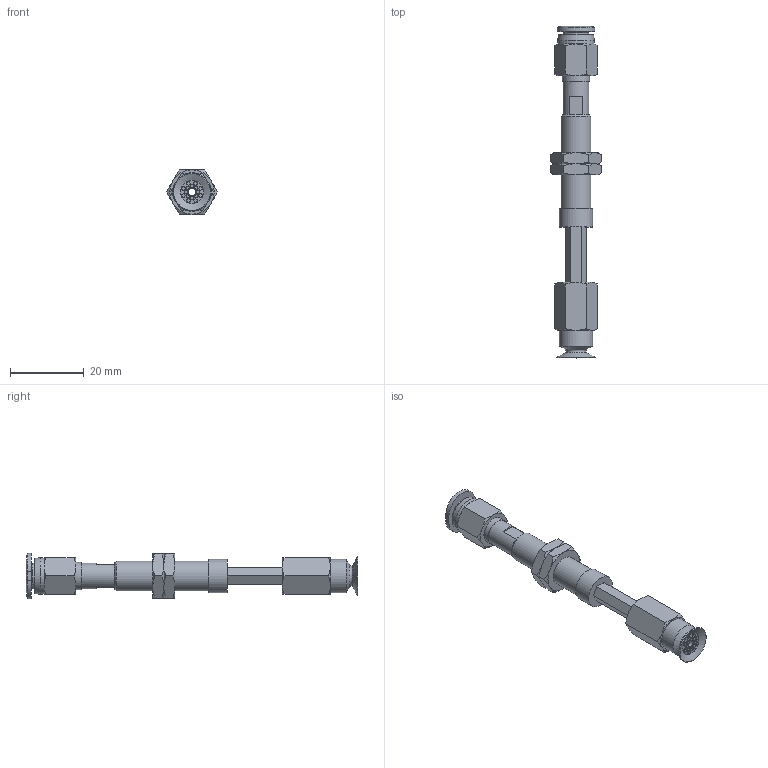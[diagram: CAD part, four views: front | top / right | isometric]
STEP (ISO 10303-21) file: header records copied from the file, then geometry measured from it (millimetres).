
FILE_DESCRIPTION(('STEP AP203'),'1');
FILE_NAME('-O.stp','2025-08-12T07:55:55',(' '),(' '),'Spatial InterOp 3D',' ',' ');
FILE_SCHEMA(('CONFIG_CONTROL_DESIGN'));
Length unit declared in the file: millimetre
Products named in the file (7): BNABPATH-10A-15-※-O; NAPATH-10A-15--F; Nut-10A-S; PC-C_06-M5; BPAG-10A-※; NAPATH-10A-15--M; ADAPTER
Assembly tree (7 placements, depth 2):
  BNABPATH-10A-15-※-O
    NAPATH-10A-15--F
    Nut-10A-S  x2
    PC-C_06-M5
    BPAG-10A-※
    NAPATH-10A-15--M
    ADAPTER
Bounding box: 13.86 x 89.98 x 12.4 mm (x, y, z)
Volume: 4739.5 mm3; surface area: 5848 mm2
Topology: 7 solids, 7 shells, 206 faces, 412 edges, 252 vertices
Faces by surface type: plane 86, cone 62, cylinder 39, torus 12, bspline 4, revolution 3
Full cylindrical faces by diameter (mm): 0.9 x16, 2 x3, 4 x4, 4.134 x1, 5 x1, 6 x2, 7 x2, 7.188 x2, 7.4 x1, 8 x1, 8.2 x1, 9 x2, 10 x1
Entity records: 5120 total; most frequent: CARTESIAN_POINT 1348, DIRECTION 719, ORIENTED_EDGE 586, AXIS2_PLACEMENT_3D 322, EDGE_CURVE 293, EDGE_LOOP 286, FACE_OUTER_BOUND 231, VERTEX_POINT 215
